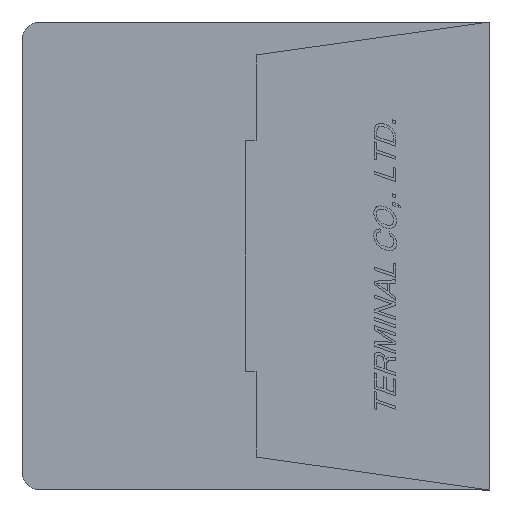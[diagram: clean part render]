
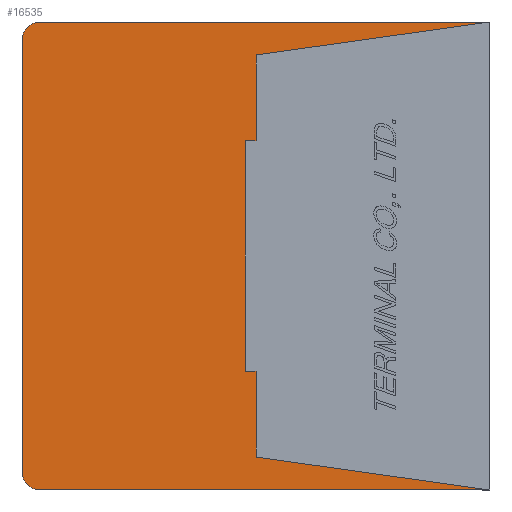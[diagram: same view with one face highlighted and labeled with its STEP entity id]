
A CAD part, left-side view. The second image highlights one B-rep face of the part: STEP entity #16535.
In plain terms, the highlighted planar face has unit normal (-1, 0, 0) as drawn and (1, 0, 0) by its records, which use the part's own axes.
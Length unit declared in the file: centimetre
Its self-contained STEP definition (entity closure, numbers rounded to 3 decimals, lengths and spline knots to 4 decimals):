
#848=CIRCLE('',#28028,0.05);
#849=CIRCLE('',#28029,0.05);
#1417=VERTEX_POINT('',#22643);
#1418=VERTEX_POINT('',#22645);
#1424=VERTEX_POINT('',#22659);
#1426=VERTEX_POINT('',#22665);
#1429=VERTEX_POINT('',#22673);
#1431=VERTEX_POINT('',#22679);
#1437=VERTEX_POINT('',#22693);
#1439=VERTEX_POINT('',#22699);
#1790=VERTEX_POINT('',#24237);
#1791=VERTEX_POINT('',#24239);
#1792=VERTEX_POINT('',#24241);
#1793=VERTEX_POINT('',#24243);
#3151=VECTOR('',#18648,1.);
#3158=VECTOR('',#18656,1.);
#3161=VECTOR('',#18660,1.);
#3164=VECTOR('',#18666,1.);
#3167=VECTOR('',#18670,1.);
#3174=VECTOR('',#18678,1.);
#3177=VECTOR('',#18682,1.);
#3595=VECTOR('',#19251,1.);
#3596=VECTOR('',#19254,1.);
#3597=VECTOR('',#19257,1.);
#5091=LINE('',#22644,#3151);
#5098=LINE('',#22658,#3158);
#5101=LINE('',#22664,#3161);
#5104=LINE('',#22672,#3164);
#5107=LINE('',#22678,#3167);
#5114=LINE('',#22692,#3174);
#5117=LINE('',#22698,#3177);
#5535=LINE('',#24236,#3595);
#5536=LINE('',#24240,#3596);
#5537=LINE('',#24244,#3597);
#7200=EDGE_CURVE('',#1418,#1417,#5091,.T.);
#7207=EDGE_CURVE('',#1424,#1418,#5098,.T.);
#7210=EDGE_CURVE('',#1426,#1424,#5101,.T.);
#7214=EDGE_CURVE('',#1429,#1426,#5104,.T.);
#7217=EDGE_CURVE('',#1431,#1429,#5107,.T.);
#7224=EDGE_CURVE('',#1437,#1431,#5114,.T.);
#7227=EDGE_CURVE('',#1439,#1437,#5117,.T.);
#7753=EDGE_CURVE('',#1417,#1790,#5535,.T.);
#7754=EDGE_CURVE('',#1791,#1790,#848,.T.);
#7755=EDGE_CURVE('',#1791,#1792,#5536,.T.);
#7756=EDGE_CURVE('',#1793,#1792,#849,.T.);
#7757=EDGE_CURVE('',#1793,#1439,#5537,.T.);
#11493=ORIENTED_EDGE('',*,*,#7200,.T.);
#11494=ORIENTED_EDGE('',*,*,#7753,.T.);
#11495=ORIENTED_EDGE('',*,*,#7754,.F.);
#11496=ORIENTED_EDGE('',*,*,#7755,.T.);
#11497=ORIENTED_EDGE('',*,*,#7756,.F.);
#11498=ORIENTED_EDGE('',*,*,#7757,.T.);
#11499=ORIENTED_EDGE('',*,*,#7227,.T.);
#11500=ORIENTED_EDGE('',*,*,#7224,.T.);
#11501=ORIENTED_EDGE('',*,*,#7217,.T.);
#11502=ORIENTED_EDGE('',*,*,#7214,.T.);
#11503=ORIENTED_EDGE('',*,*,#7210,.T.);
#11504=ORIENTED_EDGE('',*,*,#7207,.T.);
#14459=EDGE_LOOP('',(#11493,#11494,#11495,#11496,#11497,#11498,#11499,#11500,
#11501,#11502,#11503,#11504));
#15535=FACE_BOUND('',#14459,.T.);
#16535=ADVANCED_FACE('',(#15535),#17368,.F.);
#17368=PLANE('',#28027);
#18648=DIRECTION('',(0.,-0.99,-0.139));
#18656=DIRECTION('',(0.,0.,-1.));
#18660=DIRECTION('',(0.,-1.,0.));
#18666=DIRECTION('',(0.,0.,-1.));
#18670=DIRECTION('',(0.,1.,0.));
#18678=DIRECTION('',(0.,0.,-1.));
#18682=DIRECTION('',(0.,0.99,-0.139));
#19250=DIRECTION('',(-1.,0.,0.));
#19251=DIRECTION('',(0.,1.,0.));
#19252=DIRECTION('',(-1.,0.,0.));
#19253=DIRECTION('',(0.,0.,0.05));
#19254=DIRECTION('',(0.,0.,1.));
#19255=DIRECTION('',(-1.,0.,0.));
#19256=DIRECTION('',(0.,0.,0.05));
#19257=DIRECTION('',(0.,-1.,0.));
#22643=CARTESIAN_POINT('',(0.,0.,-0.64));
#22644=CARTESIAN_POINT('',(0.,0.64,-0.55));
#22645=CARTESIAN_POINT('',(0.,0.64,-0.55));
#22658=CARTESIAN_POINT('',(0.,0.64,-0.315));
#22659=CARTESIAN_POINT('',(0.,0.64,-0.315));
#22664=CARTESIAN_POINT('',(0.,0.67,-0.315));
#22665=CARTESIAN_POINT('',(0.,0.67,-0.315));
#22672=CARTESIAN_POINT('',(0.,0.67,0.315));
#22673=CARTESIAN_POINT('',(0.,0.67,0.315));
#22678=CARTESIAN_POINT('',(0.,0.64,0.315));
#22679=CARTESIAN_POINT('',(0.,0.64,0.315));
#22692=CARTESIAN_POINT('',(0.,0.64,0.55));
#22693=CARTESIAN_POINT('',(0.,0.64,0.55));
#22698=CARTESIAN_POINT('',(0.,0.,0.64));
#22699=CARTESIAN_POINT('',(0.,0.,0.64));
#24235=CARTESIAN_POINT('',(0.,0.6345,0.));
#24236=CARTESIAN_POINT('',(0.,0.,-0.64));
#24237=CARTESIAN_POINT('',(0.,1.23,-0.64));
#24238=CARTESIAN_POINT('',(0.,1.23,-0.59));
#24239=CARTESIAN_POINT('',(0.,1.28,-0.59));
#24240=CARTESIAN_POINT('',(0.,1.28,-0.59));
#24241=CARTESIAN_POINT('',(0.,1.28,0.59));
#24242=CARTESIAN_POINT('',(0.,1.23,0.59));
#24243=CARTESIAN_POINT('',(0.,1.23,0.64));
#24244=CARTESIAN_POINT('',(0.,1.23,0.64));
#28027=AXIS2_PLACEMENT_3D('',#24235,#19250,$);
#28028=AXIS2_PLACEMENT_3D('',#24238,#19252,#19253);
#28029=AXIS2_PLACEMENT_3D('',#24242,#19255,#19256);
